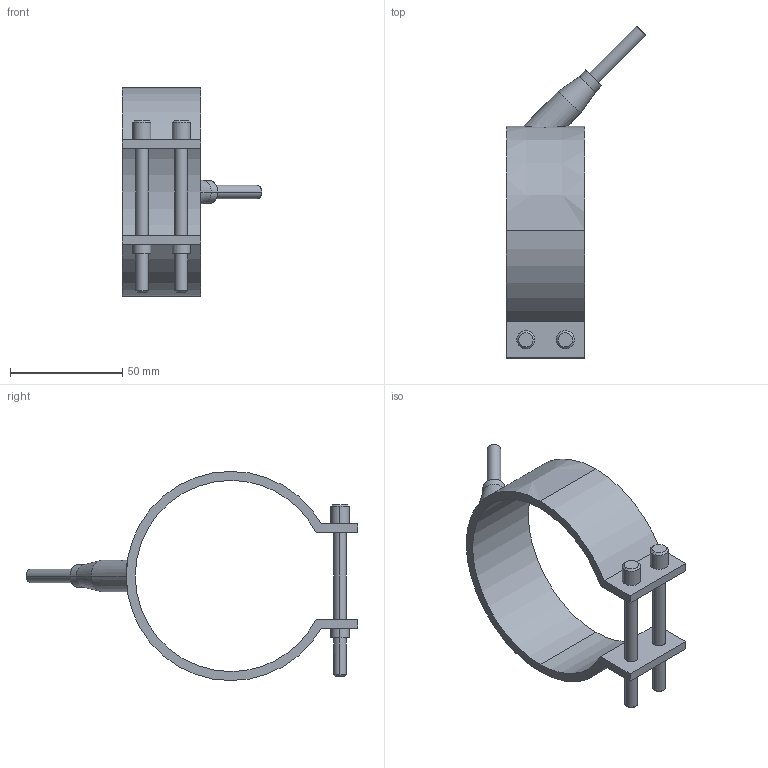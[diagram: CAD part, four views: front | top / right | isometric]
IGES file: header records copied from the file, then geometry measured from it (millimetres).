
Start section: START RECORD GO HERE.
Global section: file name: 29085035.igs; native system: DASSAULT SYSTEMES CATIA V5 R20 - www.3ds.com; preprocessor: CATIA Version 5 Release 20 ; author: Utente; organization: NB04-ASUS; date: 20210329.200523; units: millimetre
Bounding box: 62.05 x 147.55 x 93 mm (x, y, z)
Surface area: 25490.2 mm2 (no closed solid volume)
Topology: 0 solids, 0 shells, 54 faces, 246 edges, 246 vertices
Faces by surface type: revolution 38, plane 16
